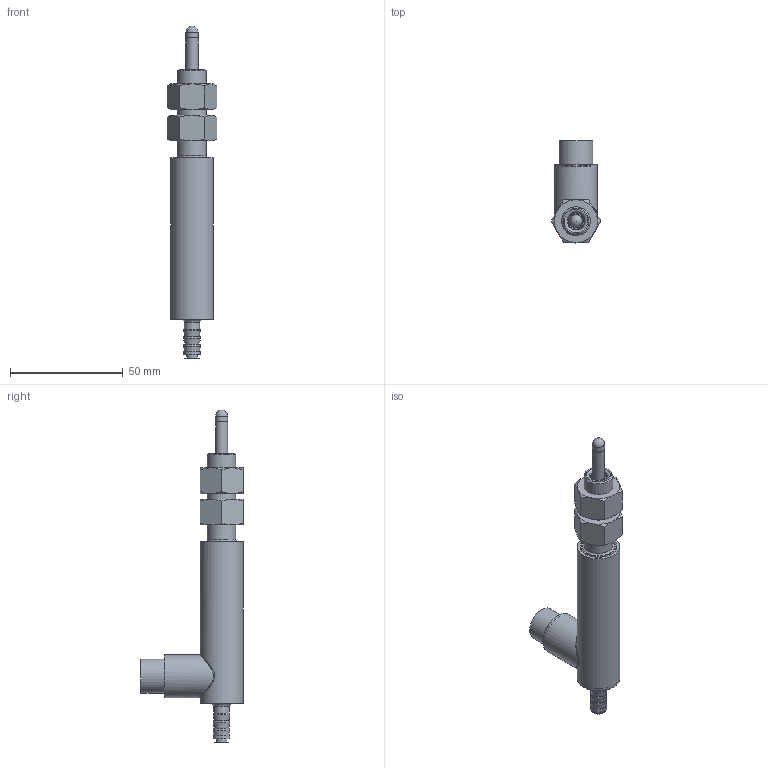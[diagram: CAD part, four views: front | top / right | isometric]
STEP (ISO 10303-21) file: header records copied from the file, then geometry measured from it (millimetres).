
FILE_DESCRIPTION(/* description */ (''),/* implementation_level */ '2;1');
FILE_NAME(/* name */ 'F:\GHRA SERIES\GHRA-750-D-XXXX\GHRA-750-D-050\GHRA-750-D-050 Assembly.iam.stp',/* time_stamp */ '2021-11-17T12:45:59-05:00',/* author */ ('J. Nielson'),/* organization */ (''),/* preprocessor_version */ 'ST-DEVELOPER v18.1',/* originating_system */ 'Autodesk Inventor 2022',/* authorisation */ '');
FILE_SCHEMA (('CONFIG_CONTROL_DESIGN','AUTOMOTIVE_DESIGN { 1 0 10303 214 3 1 1 }'));
Length unit declared in the file: inch
Products named in the file (4): GHRA-750-D-050 Assembly; GHRA-750-D-050 HOUSING_SW; GHRA-750-A-050 SHAFT_SW; AS 2465 - 1/2  UNF
Assembly tree (4 placements, depth 2):
  GHRA-750-D-050 Assembly
    GHRA-750-D-050 HOUSING_SW
    GHRA-750-A-050 SHAFT_SW
    AS 2465 - 1/2  UNF  x2
Bounding box: 22 x 45.24 x 147.19 mm (x, y, z)
Volume: 19367.1 mm3; surface area: 22161.4 mm2
Topology: 17 solids, 17 shells, 211 faces, 418 edges, 266 vertices
Faces by surface type: plane 83, cylinder 68, cone 47, bspline 7, torus 5, sphere 1
Full cylindrical faces by diameter (mm): 0.762 x12, 1.905 x1, 2.845 x2, 4.762 x1, 4.826 x2, 5.334 x4, 5.397 x1, 6 x1, 6.731 x1, 7.493 x4, 7.671 x2, 7.874 x1, 11.328 x2, 12.7 x1, 13.208 x1, 14.986 x1, 15.748 x2, 16.51 x1, 17.018 x1, 17.069 x1, 17.78 x1, 18.034 x1, 18.415 x6, 19.05 x2
Entity records: 7304 total; most frequent: CARTESIAN_POINT 2954, DIRECTION 902, ORIENTED_EDGE 732, AXIS2_PLACEMENT_3D 386, EDGE_CURVE 366, EDGE_LOOP 241, VERTEX_POINT 237, CIRCLE 197
